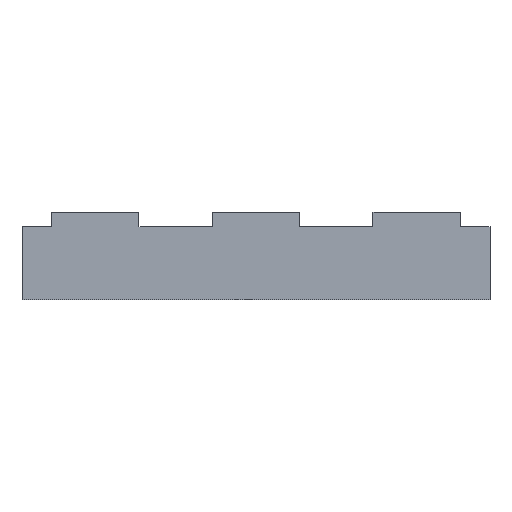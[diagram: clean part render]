
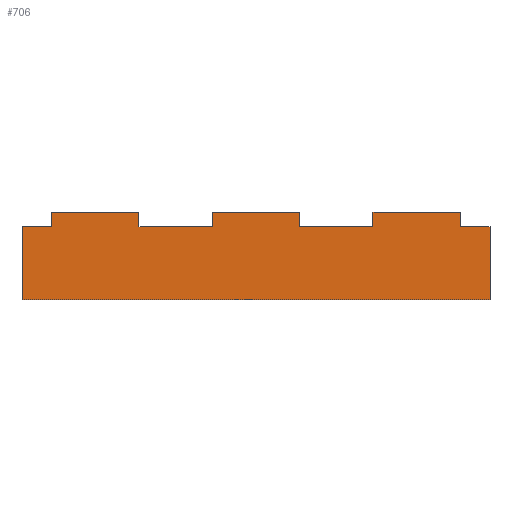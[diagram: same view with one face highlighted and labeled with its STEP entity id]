
A CAD part, front view. The second image highlights one B-rep face of the part: STEP entity #706.
In plain terms, the highlighted planar face has unit normal (0, -1, 0).
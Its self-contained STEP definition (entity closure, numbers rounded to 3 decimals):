
#21 = EDGE_CURVE('',#22,#24,#26,.T.);
#22 = VERTEX_POINT('',#23);
#23 = CARTESIAN_POINT('',(0.,0.,0.));
#24 = VERTEX_POINT('',#25);
#25 = CARTESIAN_POINT('',(0.,0.,5.));
#26 = LINE('',#27,#28);
#27 = CARTESIAN_POINT('',(0.,0.,0.));
#28 = VECTOR('',#29,1.);
#29 = DIRECTION('',(0.,0.,1.));
#70 = EDGE_CURVE('',#24,#71,#73,.T.);
#71 = VERTEX_POINT('',#72);
#72 = CARTESIAN_POINT('',(2.,0.,5.));
#73 = LINE('',#74,#75);
#74 = CARTESIAN_POINT('',(0.,0.,5.));
#75 = VECTOR('',#76,1.);
#76 = DIRECTION('',(1.,0.,-0.));
#116 = EDGE_CURVE('',#71,#117,#119,.T.);
#117 = VERTEX_POINT('',#118);
#118 = CARTESIAN_POINT('',(2.,0.,6.));
#119 = LINE('',#120,#121);
#120 = CARTESIAN_POINT('',(2.,0.,0.));
#121 = VECTOR('',#122,1.);
#122 = DIRECTION('',(0.,0.,1.));
#157 = EDGE_CURVE('',#117,#158,#160,.T.);
#158 = VERTEX_POINT('',#159);
#159 = CARTESIAN_POINT('',(8.,0.,6.));
#160 = LINE('',#161,#162);
#161 = CARTESIAN_POINT('',(2.,0.,6.));
#162 = VECTOR('',#163,1.);
#163 = DIRECTION('',(1.,0.,-0.));
#211 = EDGE_CURVE('',#212,#158,#214,.T.);
#212 = VERTEX_POINT('',#213);
#213 = CARTESIAN_POINT('',(8.,0.,5.));
#214 = LINE('',#215,#216);
#215 = CARTESIAN_POINT('',(8.,0.,0.));
#216 = VECTOR('',#217,1.);
#217 = DIRECTION('',(0.,0.,1.));
#260 = EDGE_CURVE('',#212,#261,#263,.T.);
#261 = VERTEX_POINT('',#262);
#262 = CARTESIAN_POINT('',(13.,0.,5.));
#263 = LINE('',#264,#265);
#264 = CARTESIAN_POINT('',(0.,0.,5.));
#265 = VECTOR('',#266,1.);
#266 = DIRECTION('',(1.,0.,-0.));
#306 = EDGE_CURVE('',#261,#307,#309,.T.);
#307 = VERTEX_POINT('',#308);
#308 = CARTESIAN_POINT('',(13.,0.,6.));
#309 = LINE('',#310,#311);
#310 = CARTESIAN_POINT('',(13.,0.,0.));
#311 = VECTOR('',#312,1.);
#312 = DIRECTION('',(0.,0.,1.));
#347 = EDGE_CURVE('',#307,#348,#350,.T.);
#348 = VERTEX_POINT('',#349);
#349 = CARTESIAN_POINT('',(19.,0.,6.));
#350 = LINE('',#351,#352);
#351 = CARTESIAN_POINT('',(13.,0.,6.));
#352 = VECTOR('',#353,1.);
#353 = DIRECTION('',(1.,0.,-0.));
#388 = VERTEX_POINT('',#389);
#389 = CARTESIAN_POINT('',(19.,0.,5.));
#395 = EDGE_CURVE('',#388,#396,#398,.T.);
#396 = VERTEX_POINT('',#397);
#397 = CARTESIAN_POINT('',(24.,0.,5.));
#398 = LINE('',#399,#400);
#399 = CARTESIAN_POINT('',(0.,0.,5.));
#400 = VECTOR('',#401,1.);
#401 = DIRECTION('',(1.,0.,-0.));
#417 = EDGE_CURVE('',#388,#348,#418,.T.);
#418 = LINE('',#419,#420);
#419 = CARTESIAN_POINT('',(19.,0.,0.));
#420 = VECTOR('',#421,1.);
#421 = DIRECTION('',(0.,0.,1.));
#496 = EDGE_CURVE('',#396,#497,#499,.T.);
#497 = VERTEX_POINT('',#498);
#498 = CARTESIAN_POINT('',(24.,0.,6.));
#499 = LINE('',#500,#501);
#500 = CARTESIAN_POINT('',(24.,0.,0.));
#501 = VECTOR('',#502,1.);
#502 = DIRECTION('',(0.,0.,1.));
#537 = EDGE_CURVE('',#497,#538,#540,.T.);
#538 = VERTEX_POINT('',#539);
#539 = CARTESIAN_POINT('',(30.,0.,6.));
#540 = LINE('',#541,#542);
#541 = CARTESIAN_POINT('',(24.,0.,6.));
#542 = VECTOR('',#543,1.);
#543 = DIRECTION('',(1.,0.,-0.));
#567 = EDGE_CURVE('',#568,#570,#572,.T.);
#568 = VERTEX_POINT('',#569);
#569 = CARTESIAN_POINT('',(32.,0.,0.));
#570 = VERTEX_POINT('',#571);
#571 = CARTESIAN_POINT('',(32.,0.,5.));
#572 = LINE('',#573,#574);
#573 = CARTESIAN_POINT('',(32.,0.,0.));
#574 = VECTOR('',#575,1.);
#575 = DIRECTION('',(0.,0.,1.));
#616 = VERTEX_POINT('',#617);
#617 = CARTESIAN_POINT('',(30.,0.,5.));
#623 = EDGE_CURVE('',#616,#570,#624,.T.);
#624 = LINE('',#625,#626);
#625 = CARTESIAN_POINT('',(0.,0.,5.));
#626 = VECTOR('',#627,1.);
#627 = DIRECTION('',(1.,0.,-0.));
#638 = EDGE_CURVE('',#616,#538,#639,.T.);
#639 = LINE('',#640,#641);
#640 = CARTESIAN_POINT('',(30.,0.,0.));
#641 = VECTOR('',#642,1.);
#642 = DIRECTION('',(0.,0.,1.));
#706 = ADVANCED_FACE('',(#707),#730,.T.);
#707 = FACE_BOUND('',#708,.T.);
#708 = EDGE_LOOP('',(#709,#715,#716,#717,#718,#719,#720,#721,#722,#723,
    #724,#725,#726,#727,#728,#729));
#709 = ORIENTED_EDGE('',*,*,#710,.T.);
#710 = EDGE_CURVE('',#22,#568,#711,.T.);
#711 = LINE('',#712,#713);
#712 = CARTESIAN_POINT('',(0.,0.,0.));
#713 = VECTOR('',#714,1.);
#714 = DIRECTION('',(1.,0.,-0.));
#715 = ORIENTED_EDGE('',*,*,#567,.T.);
#716 = ORIENTED_EDGE('',*,*,#623,.F.);
#717 = ORIENTED_EDGE('',*,*,#638,.T.);
#718 = ORIENTED_EDGE('',*,*,#537,.F.);
#719 = ORIENTED_EDGE('',*,*,#496,.F.);
#720 = ORIENTED_EDGE('',*,*,#395,.F.);
#721 = ORIENTED_EDGE('',*,*,#417,.T.);
#722 = ORIENTED_EDGE('',*,*,#347,.F.);
#723 = ORIENTED_EDGE('',*,*,#306,.F.);
#724 = ORIENTED_EDGE('',*,*,#260,.F.);
#725 = ORIENTED_EDGE('',*,*,#211,.T.);
#726 = ORIENTED_EDGE('',*,*,#157,.F.);
#727 = ORIENTED_EDGE('',*,*,#116,.F.);
#728 = ORIENTED_EDGE('',*,*,#70,.F.);
#729 = ORIENTED_EDGE('',*,*,#21,.F.);
#730 = PLANE('',#731);
#731 = AXIS2_PLACEMENT_3D('',#732,#733,#734);
#732 = CARTESIAN_POINT('',(16.,0.,2.95));
#733 = DIRECTION('',(-0.,-1.,-0.));
#734 = DIRECTION('',(0.,0.,-1.));
